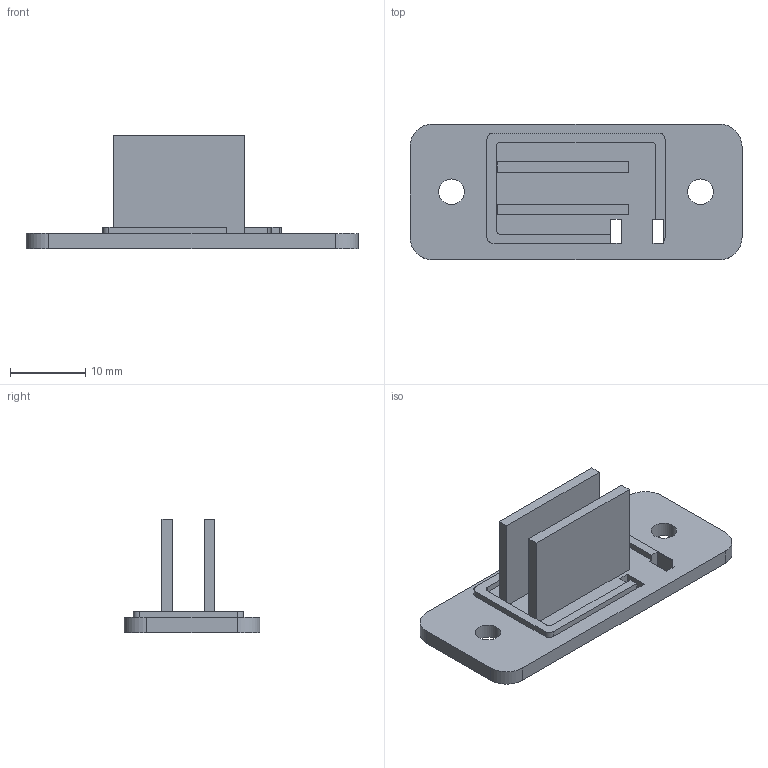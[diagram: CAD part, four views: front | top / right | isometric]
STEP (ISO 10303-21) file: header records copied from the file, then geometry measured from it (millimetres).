
FILE_DESCRIPTION(('Open CASCADE Model'),'2;1');
FILE_NAME('Open CASCADE Shape Model','2026-10-30T11:34:49',('Author'),( 'Open CASCADE'),'Open CASCADE STEP processor 7.9','Open CASCADE 7.9' ,'Unknown');
FILE_SCHEMA(('AUTOMOTIVE_DESIGN { 1 0 10303 214 1 1 1 1 }'));
Length unit declared in the file: millimetre
Products named in the file (1): Open CASCADE STEP translator 7.9 4
Bounding box: 44 x 18 x 15 mm (x, y, z)
Volume: 2207.9 mm3; surface area: 2914 mm2
Topology: 1 solids, 1 shells, 46 faces, 128 edges, 85 vertices
Faces by surface type: plane 33, cylinder 13
Full cylindrical faces by diameter (mm): 3.4 x2
Entity records: 3144 total; most frequent: CARTESIAN_POINT 640, DIRECTION 440, LINE 280, VECTOR 280, ORIENTED_EDGE 256, PCURVE 256, DEFINITIONAL_REPRESENTATION 256, EDGE_CURVE 128
